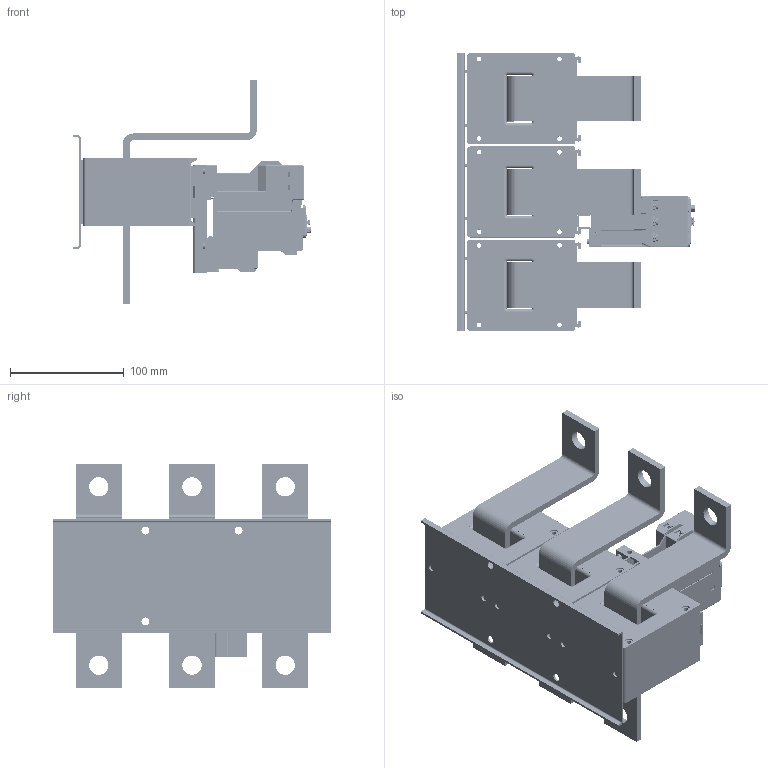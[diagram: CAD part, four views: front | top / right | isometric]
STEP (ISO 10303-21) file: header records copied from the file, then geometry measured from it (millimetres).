
FILE_DESCRIPTION(/* description */ (''),/* implementation_level */ '2;1');
FILE_NAME(/* name */ 'HGT800AF.stp',/* time_stamp */ '2017-12-06T11:52:52+09:00',/* author */ (''),/* organization */ (''),/* preprocessor_version */ 'ST-DEVELOPER v15',/* originating_system */ 'SIEMENS PLM Software NX 9.0',/* authorisation */ '');
FILE_SCHEMA (('CONFIG_CONTROL_DESIGN'));
Products named in the file (1): HGT800AF
Bounding box: 209.7 x 245 x 197 mm (x, y, z)
Volume: 1689686.3 mm3; surface area: 493360.5 mm2
Topology: 130 solids, 152 shells, 9563 faces, 25662 edges, 16625 vertices
Faces by surface type: plane 6378, cylinder 2366, bspline 372, torus 196, cone 123, sphere 77, extrusion 51
Full cylindrical faces by diameter (mm): 1.8 x4, 2.5 x1, 3 x10, 3.5 x4, 4 x6, 4.1 x24, 5 x30, 5.5 x8, 5.7 x1, 6.2 x1, 6.5 x1, 6.7 x5, 6.8 x4, 7 x5, 7.5 x36, 8 x7, 12 x1, 17 x6
Entity records: 335212 total; most frequent: CARTESIAN_POINT 96639, ORIENTED_EDGE 50608, DIRECTION 47552, EDGE_CURVE 25304, VECTOR 18538, LINE 18487, VERTEX_POINT 16589, AXIS2_PLACEMENT_3D 14507
